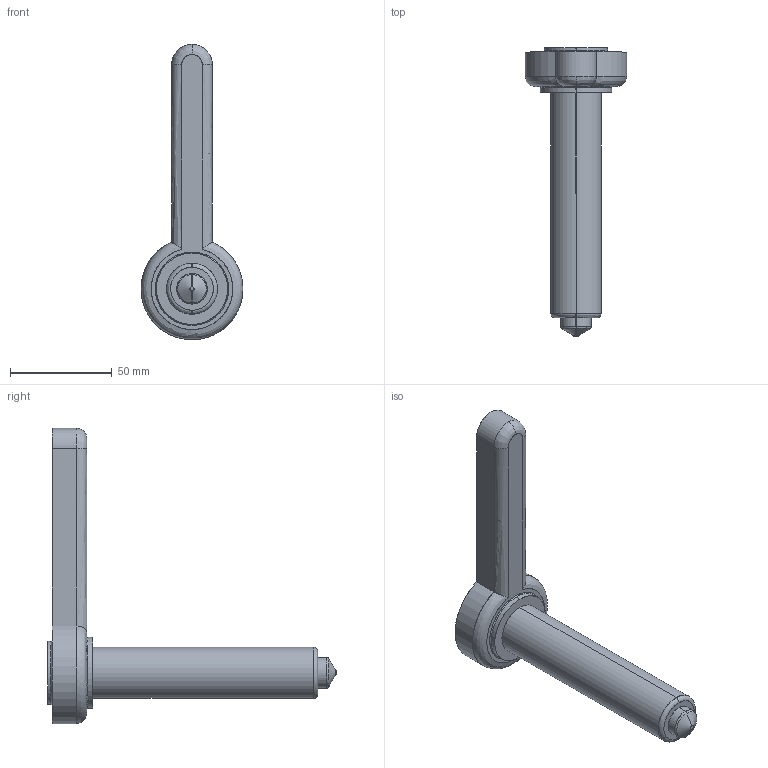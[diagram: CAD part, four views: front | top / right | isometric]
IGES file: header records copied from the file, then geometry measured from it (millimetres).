
Start section: SolidWorks IGES file using analytic representation for surfaces
Global section: file name: C:\Users\luca.EMPAD\Desktop\TEM\Sede UGDL2603-S-A C-119 L-137 Ød=2.0.IGS; native system: SolidWorks 2012; preprocessor: SolidWorks 2012; author: luca; date: 120330.145319; units: millimetre
Bounding box: 49.97 x 141.41 x 145 mm (x, y, z)
Surface area: 22068.9 mm2 (no closed solid volume)
Topology: 0 solids, 0 shells, 36 faces, 698 edges, 698 vertices
Faces by surface type: revolution 21, bspline 15
